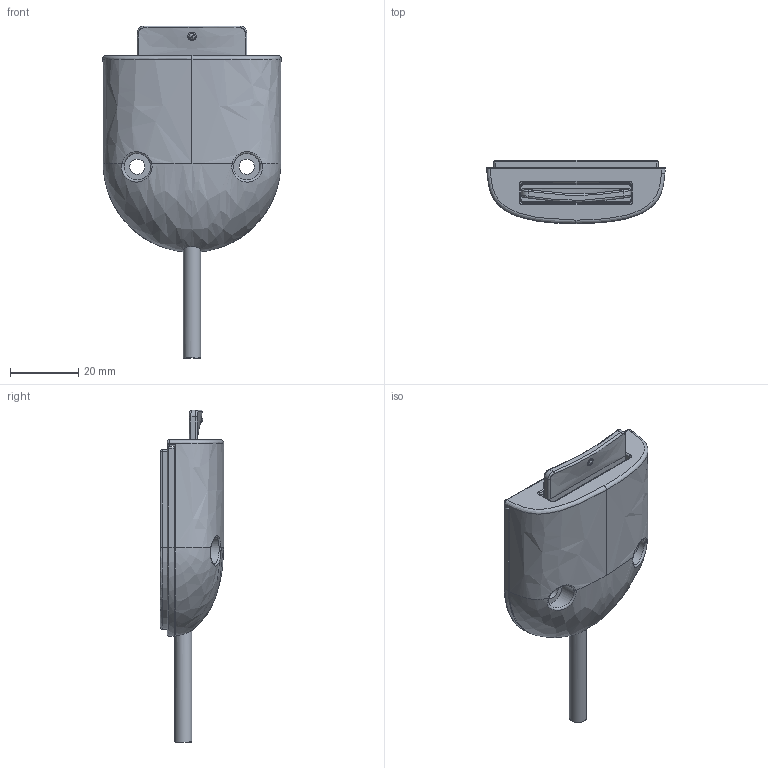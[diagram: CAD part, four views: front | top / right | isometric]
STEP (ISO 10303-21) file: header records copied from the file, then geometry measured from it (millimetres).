
FILE_DESCRIPTION (( 'STEP AP203' ), '1' );
FILE_NAME ('TFH21-A.STEP', '2017-01-25T07:29:14', ( '' ), ( '' ), 'SwSTEP 2.0', 'SolidWorks 2015', '' );
FILE_SCHEMA (( 'CONFIG_CONTROL_DESIGN' ));
Length unit declared in the file: millimetre
Products named in the file (1): TFH21-A
Bounding box: 52.25 x 18.5 x 97.11 mm (x, y, z)
Volume: 40842.6 mm3; surface area: 9974.4 mm2
Topology: 5 solids, 5 shells, 217 faces, 595 edges, 388 vertices
Faces by surface type: bspline 75, plane 74, cylinder 66, torus 2
Full cylindrical faces by diameter (mm): 3.2 x2, 4.5 x2, 5 x1, 5.3 x2, 5.6 x2, 7.8 x2
Entity records: 19962 total; most frequent: CARTESIAN_POINT 15344, ORIENTED_EDGE 1132, DIRECTION 634, EDGE_CURVE 566, VERTEX_POINT 382, B_SPLINE_CURVE_WITH_KNOTS 296, EDGE_LOOP 244, AXIS2_PLACEMENT_3D 237
